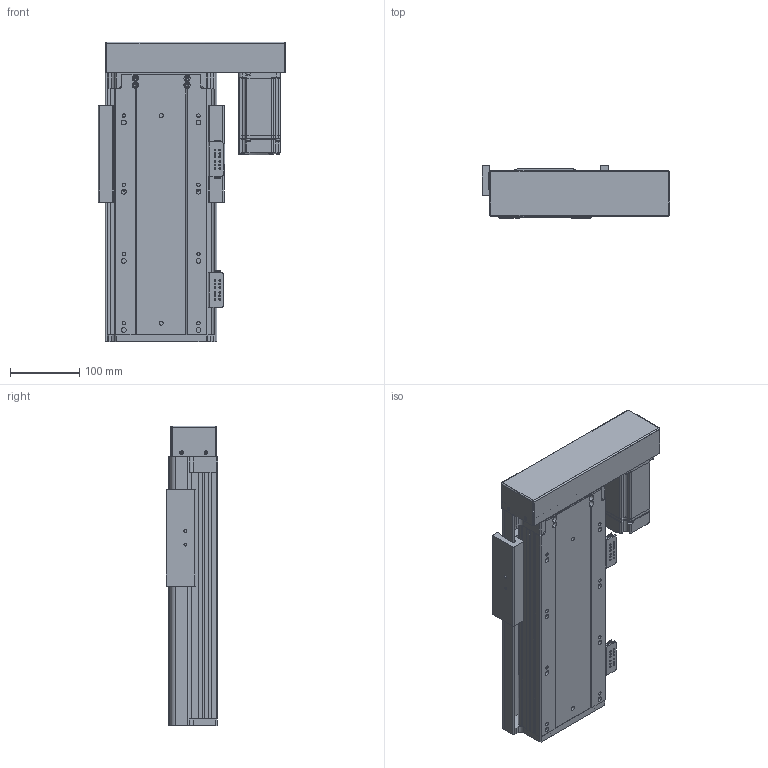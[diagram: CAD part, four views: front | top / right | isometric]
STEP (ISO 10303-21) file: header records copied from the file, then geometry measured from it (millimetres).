
FILE_DESCRIPTION (( 'STEP AP203' ), '1' );
FILE_NAME ('RY140FB-L2010-300-RK.SLDASM_150.step', '2021-02-23T02:40:43', ( '盈信电脑' ), ( '东莞市道滘镇水果街19号' ), 'SwSTEP 2.0', 'SolidWorks 2012', '' );
FILE_SCHEMA (( 'CONFIG_CONTROL_DESIGN' ));
Products named in the file (17): RY140FB-L2010-300-RK.SLDASM_150; RY140FB-酘衵殏萇儂欶; RY140FB-左右折电机安装板; RY140-674嫖萇耀輸; RY140直线电机感应器674光电安装座; RY140FB-覜茼え; 覜茼ん674; RY140FB-20佪裝臏賑輸; RY140FB-300蛌殏奻裔啣-RK_150; 侂狟400W侜督萇儂; RY140FB-转折电机端支撑座(7002); 滅袉蝶18-24; 15; 滅袉蝶18-10; RY140FB-綴裔啣; RY140FB-300蛌殏倰第菁釱-RK_150
Assembly tree (20 placements, depth 3):
  RY140FB-L2010-300-RK.SLDASM_150
    RY140FB-300蛌殏倰第菁釱-RK_150
    RY140FB-綴裔啣
    滅袉蝶18-24  x2
    滅袉蝶18-10
    RY140FB-转折电机端支撑座(7002)
    侂狟400W侜督萇儂
      15
    RY140FB-20佪裝臏賑輸
    RY140FB-300蛌殏奻裔啣-RK_150
    RY140-674嫖萇耀輸
      覜茼ん674
      RY140直线电机感应器674光电安装座
    RY140-674嫖萇耀輸
      覜茼ん674  x2
      RY140直线电机感应器674光电安装座
    RY140FB-覜茼え
    RY140FB-左右折电机安装板
    RY140FB-酘衵殏萇儂欶
Bounding box: 271.3 x 75 x 433.2 mm (x, y, z)
Volume: 2429061 mm3; surface area: 761844.6 mm2
Topology: 17 solids, 17 shells, 1642 faces, 4439 edges, 2837 vertices
Faces by surface type: cylinder 753, plane 727, cone 134, bspline 28
Entity records: 48709 total; most frequent: CARTESIAN_POINT 9529, DIRECTION 7964, ORIENTED_EDGE 7658, EDGE_CURVE 3829, AXIS2_PLACEMENT_3D 2852, VERTEX_POINT 2505, LINE 2260, VECTOR 2260
